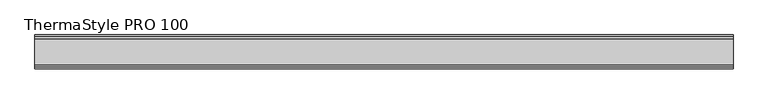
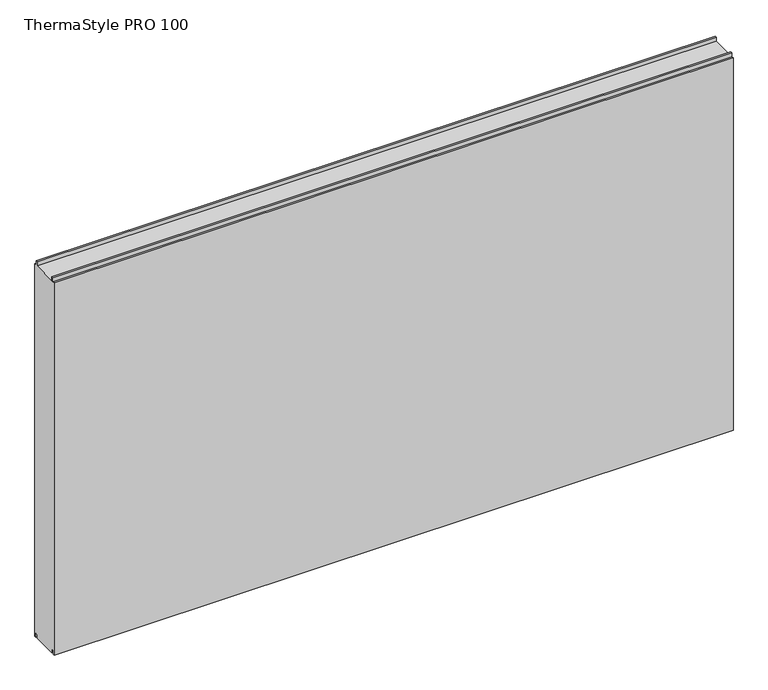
"""IFC4 building model written with IfcOpenShell, lengths in millimetres: plate geometry, Europanels_ThermaStyle PRO_Hz : ThermaStyle PRO 100."""

from ifc_helpers import new_model, si_unit, frame, origin, place, context, project, spatial, polyline, outline, extrude, source, transform, mapped, element, save


def thermastyle_pro_100_2d84ebb2(model_context):
    return source(origin(), model_context, "Body", "SweptSolid", [
        extrude(outline(polyline([(50.0, 1189.0), (50.0, 1.0), (45.0, 1.0), (45.0, 12.9552971), (37.8855682, 12.9552971), (37.8855682, 1.0), (-37.8855682, 1.0), (-37.8855682, 12.9552971), (-45.0, 12.9552971), (-45.0, 1.0), (-50.0, 1.0), (-50.0, 1189.0), (-44.0, 1189.0), (-44.0, 1201.9631544), (-38.8855682, 1201.9631544), (-38.8855682, 1189.0), (38.8855682, 1189.0), (38.8855682, 1201.9631544), (44.0, 1201.9631544), (44.0, 1189.0), (50.0, 1189.0)])), frame((-1025.0, 0.0, 0.0), z_axis=(1.0, 0.0, 0.0), x_axis=(0.0, 1.0, 0.0)), (0.0, 0.0, 1.0), 2050.0),
    ])


if __name__ == "__main__":
    model = new_model("IFC4")
    model_context = context("Model", 3, world=origin())
    ifc_project = project(units=[si_unit("LENGTHUNIT", "METRE", prefix="MILLI")], contexts=[model_context])
    site = spatial("IfcSite", under=ifc_project)
    building = spatial("IfcBuilding", under=site)
    placement = place(None, origin())
    thermastyle_pro_100_shape = thermastyle_pro_100_2d84ebb2(model_context)
    element("IfcPlate", 1, ObjectType="Europanels_ThermaStyle PRO_Hz : ThermaStyle PRO 100", at=placement, inside=building, context=model_context, shape_type="MappedRepresentation", body=[
        mapped(thermastyle_pro_100_shape, transform((0.0, 0.0, 0.0), x_axis=(1.0, 0.0, 0.0), y_axis=(0.0, 1.0, 0.0), z_axis=(0.0, 0.0, 1.0))),
    ])
    save(model, "model.ifc")
